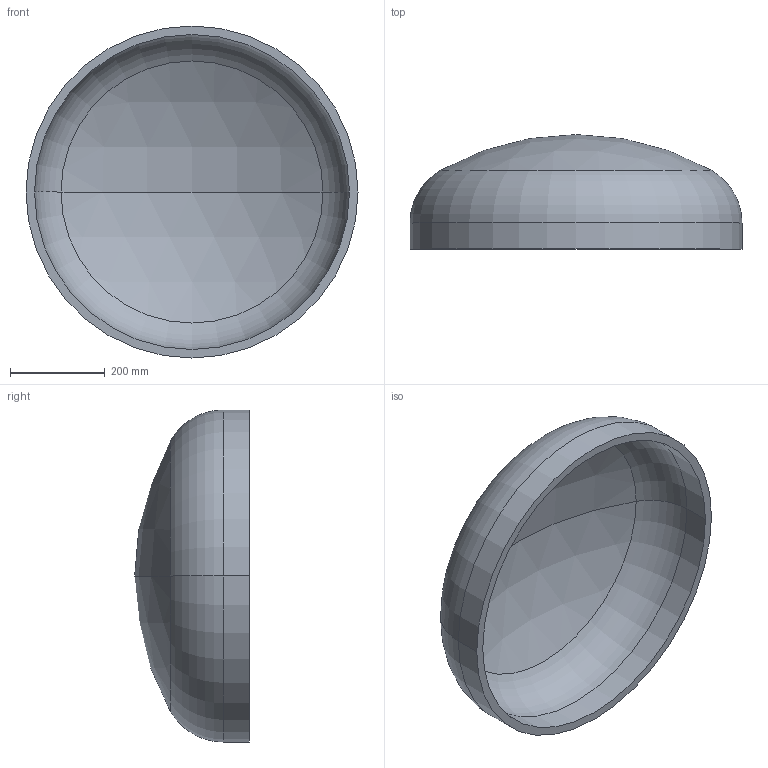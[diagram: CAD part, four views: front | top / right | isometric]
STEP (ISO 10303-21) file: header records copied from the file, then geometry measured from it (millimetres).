
FILE_DESCRIPTION (( 'STEP AP203' ), '1' );
FILE_NAME ('DIN 28013 Korbbogenform_-_Boden DIN 28013 - 700 x 55 - I - s=18.step', '2016-07-01T08:05:00', ( '' ), ( '' ), 'SwSTEP 2.0', 'SolidWorks 2013', '' );
FILE_SCHEMA (( 'CONFIG_CONTROL_DESIGN' ));
Length unit declared in the file: millimetre
Products named in the file (1): DIN 28013 Korbbogenform_-_Boden DIN 28013 - 700 x 55 - I - s=18
Bounding box: 700 x 241.57 x 700 mm (x, y, z)
Volume: 11435065.2 mm3; surface area: 1309807.2 mm2
Topology: 1 solids, 1 shells, 13 faces, 24 edges, 14 vertices
Faces by surface type: torus 4, cylinder 4, sphere 4, plane 1
Entity records: 407 total; most frequent: DIRECTION 72, CARTESIAN_POINT 52, ORIENTED_EDGE 48, AXIS2_PLACEMENT_3D 34, EDGE_CURVE 24, CIRCLE 20, EDGE_LOOP 14, VERTEX_POINT 14
